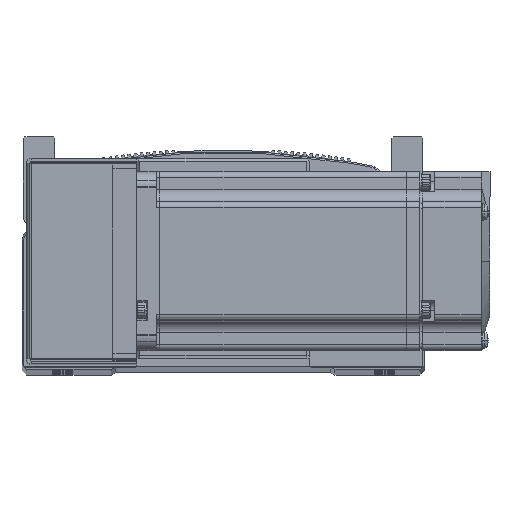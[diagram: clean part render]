
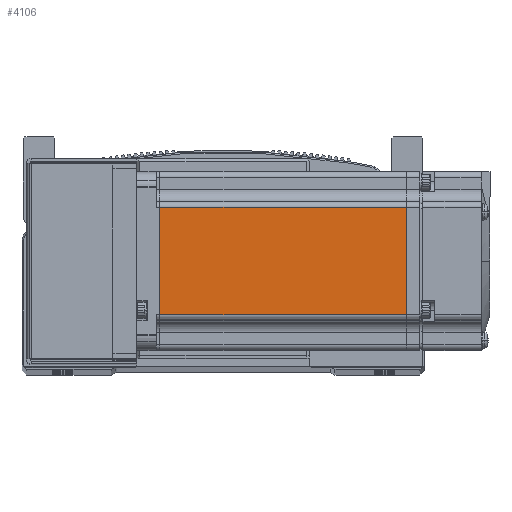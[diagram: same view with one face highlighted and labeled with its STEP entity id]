
A CAD part, top view. The second image highlights one B-rep face of the part: STEP entity #4106.
In plain terms, the highlighted planar face has unit normal (0, 0, 1) as drawn and (0, 0, -1) by its records, which use the part's own axes.
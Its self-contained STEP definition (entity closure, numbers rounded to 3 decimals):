
#4106 = ADVANCED_FACE ( 'NONE', ( #35307 ), #84897, .T. ) ;
#7913 = CARTESIAN_POINT ( 'NONE',  ( -90.45, 18., -30. ) ) ;
#7981 = CARTESIAN_POINT ( 'NONE',  ( -7.75, -18., -30. ) ) ;
#8034 = CARTESIAN_POINT ( 'NONE',  ( -7.75, 18., -30. ) ) ;
#8103 = CARTESIAN_POINT ( 'NONE',  ( -90.45, -18., -30. ) ) ;
#12509 = VECTOR ( 'NONE', #21677, 1000. ) ;
#12532 = LINE ( 'NONE', #21626, #12564 ) ;
#12553 = LINE ( 'NONE', #21668, #12587 ) ;
#12564 = VECTOR ( 'NONE', #21629, 1000. ) ;
#12574 = LINE ( 'NONE', #21654, #12509 ) ;
#12587 = VECTOR ( 'NONE', #21681, 1000. ) ;
#12750 = VECTOR ( 'NONE', #16552, 1000. ) ;
#12790 = LINE ( 'NONE', #16526, #12750 ) ;
#16526 = CARTESIAN_POINT ( 'NONE',  ( -90.45, 25., -30. ) ) ;
#16552 = DIRECTION ( 'NONE',  ( 0., 1., 0. ) ) ;
#21626 = CARTESIAN_POINT ( 'NONE',  ( -6.5, 18., -30. ) ) ;
#21629 = DIRECTION ( 'NONE',  ( 1., 0., 0. ) ) ;
#21654 = CARTESIAN_POINT ( 'NONE',  ( -7.75, 25., -30. ) ) ;
#21668 = CARTESIAN_POINT ( 'NONE',  ( -6.5, -18., -30. ) ) ;
#21677 = DIRECTION ( 'NONE',  ( 0., -1., 0. ) ) ;
#21681 = DIRECTION ( 'NONE',  ( -1., 0., 0. ) ) ;
#35307 = FACE_OUTER_BOUND ( 'NONE', #63115, .T. ) ;
#56451 = AXIS2_PLACEMENT_3D ( 'NONE', #84530, #84645, #84703 ) ;
#63115 = EDGE_LOOP ( 'NONE', ( #81253, #81259, #81240, #81221 ) ) ;
#73357 = EDGE_CURVE ( 'NONE', #82700, #82726, #12532, .T. ) ;
#73371 = EDGE_CURVE ( 'NONE', #82726, #82676, #12574, .T. ) ;
#73373 = EDGE_CURVE ( 'NONE', #82676, #82712, #12553, .T. ) ;
#73441 = EDGE_CURVE ( 'NONE', #82712, #82700, #12790, .T. ) ;
#81221 = ORIENTED_EDGE ( 'NONE', *, *, #73357, .T. ) ;
#81240 = ORIENTED_EDGE ( 'NONE', *, *, #73441, .T. ) ;
#81253 = ORIENTED_EDGE ( 'NONE', *, *, #73371, .T. ) ;
#81259 = ORIENTED_EDGE ( 'NONE', *, *, #73373, .T. ) ;
#82676 = VERTEX_POINT ( 'NONE', #7981 ) ;
#82700 = VERTEX_POINT ( 'NONE', #7913 ) ;
#82712 = VERTEX_POINT ( 'NONE', #8103 ) ;
#82726 = VERTEX_POINT ( 'NONE', #8034 ) ;
#84530 = CARTESIAN_POINT ( 'NONE',  ( -6.5, 25., -30. ) ) ;
#84645 = DIRECTION ( 'NONE',  ( 0., 0., -1. ) ) ;
#84703 = DIRECTION ( 'NONE',  ( -1., 0., 0. ) ) ;
#84897 = PLANE ( 'NONE',  #56451 ) ;
